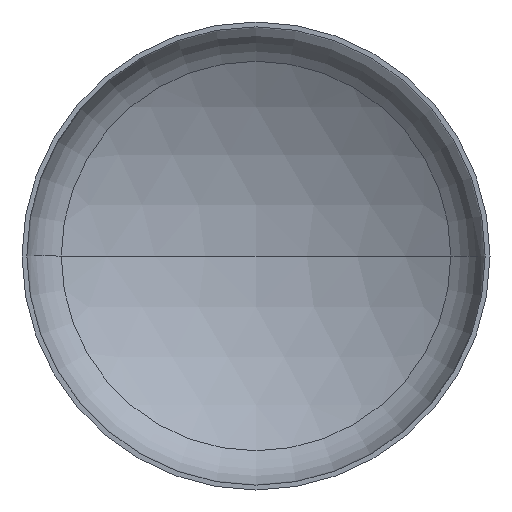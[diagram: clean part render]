
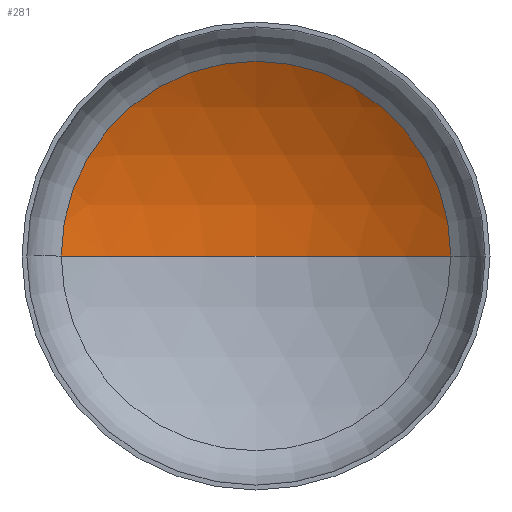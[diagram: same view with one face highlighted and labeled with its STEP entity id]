
A CAD part, front view. The second image highlights one B-rep face of the part: STEP entity #281.
In plain terms, the highlighted spherical face has radius 2400 mm.
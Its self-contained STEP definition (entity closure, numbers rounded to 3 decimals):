
#3 = CARTESIAN_POINT ( 'NONE',  ( 0., 843.039, 0. ) ) ;
#6 = CARTESIAN_POINT ( 'NONE',  ( 0., -1556.961, 0. ) ) ;
#7 = ORIENTED_EDGE ( 'NONE', *, *, #338, .T. ) ;
#11 = EDGE_LOOP ( 'NONE', ( #126, #94, #7 ) ) ;
#13 = AXIS2_PLACEMENT_3D ( 'NONE', #317, #139, #259 ) ;
#16 = FACE_OUTER_BOUND ( 'NONE', #11, .T. ) ;
#20 = AXIS2_PLACEMENT_3D ( 'NONE', #238, #408, #411 ) ;
#24 = AXIS2_PLACEMENT_3D ( 'NONE', #230, #229, #137 ) ;
#68 = CIRCLE ( 'NONE', #315, 2400. ) ;
#71 = VERTEX_POINT ( 'NONE', #322 ) ;
#72 = DIRECTION ( 'NONE',  ( 1., 0., 0. ) ) ;
#94 = ORIENTED_EDGE ( 'NONE', *, *, #345, .T. ) ;
#105 = VERTEX_POINT ( 'NONE', #288 ) ;
#126 = ORIENTED_EDGE ( 'NONE', *, *, #381, .F. ) ;
#137 = DIRECTION ( 'NONE',  ( -1., 0., 0. ) ) ;
#139 = DIRECTION ( 'NONE',  ( 0., 0., -1. ) ) ;
#187 = VERTEX_POINT ( 'NONE', #3 ) ;
#229 = DIRECTION ( 'NONE',  ( 0., 0., -1. ) ) ;
#230 = CARTESIAN_POINT ( 'NONE',  ( 0., -1556.961, 0. ) ) ;
#238 = CARTESIAN_POINT ( 'NONE',  ( 0., 492.888, 0. ) ) ;
#259 = DIRECTION ( 'NONE',  ( -1., 0., 0. ) ) ;
#267 = CIRCLE ( 'NONE', #20, 1248.247 ) ;
#268 = DIRECTION ( 'NONE',  ( 0., 0., 1. ) ) ;
#281 = ADVANCED_FACE ( 'NONE', ( #16 ), #404, .F. ) ;
#288 = CARTESIAN_POINT ( 'NONE',  ( -1248.247, 492.888, 0. ) ) ;
#315 = AXIS2_PLACEMENT_3D ( 'NONE', #6, #268, #72 ) ;
#317 = CARTESIAN_POINT ( 'NONE',  ( 0., -1556.961, 0. ) ) ;
#322 = CARTESIAN_POINT ( 'NONE',  ( 1248.247, 492.888, 0. ) ) ;
#337 = CIRCLE ( 'NONE', #13, 2400. ) ;
#338 = EDGE_CURVE ( 'NONE', #71, #105, #267, .T. ) ;
#345 = EDGE_CURVE ( 'NONE', #187, #71, #337, .T. ) ;
#381 = EDGE_CURVE ( 'NONE', #187, #105, #68, .T. ) ;
#404 = SPHERICAL_SURFACE ( 'NONE', #24, 2400. ) ;
#408 = DIRECTION ( 'NONE',  ( 0., -1., 0. ) ) ;
#411 = DIRECTION ( 'NONE',  ( 1., 0., 0. ) ) ;
